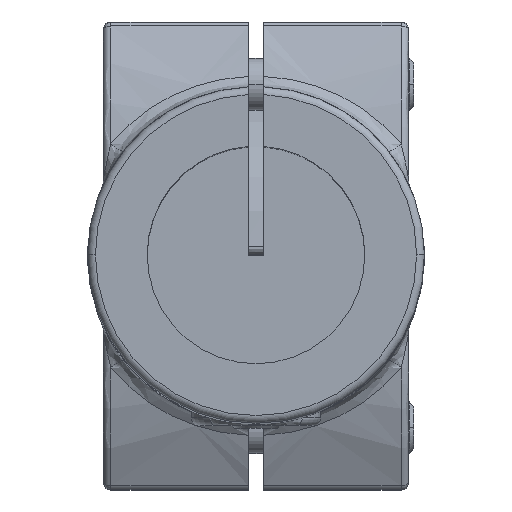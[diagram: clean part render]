
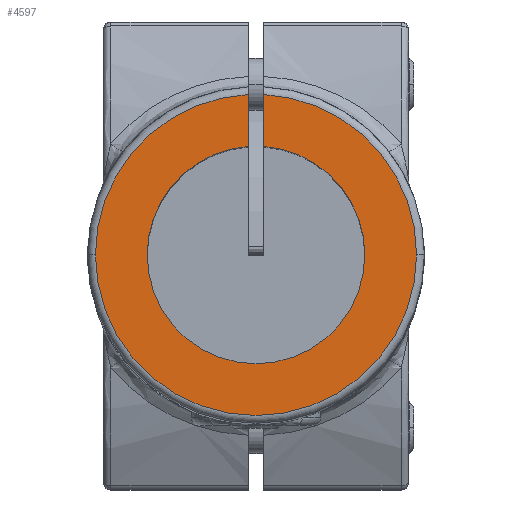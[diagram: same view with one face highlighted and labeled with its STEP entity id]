
A CAD part, top view. The second image highlights one B-rep face of the part: STEP entity #4597.
In plain terms, the highlighted planar face has unit normal (0, 0, 1) as drawn and (0, 0, -1) by its records, which use the part's own axes.
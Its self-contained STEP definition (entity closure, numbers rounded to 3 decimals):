
#393 = DIRECTION ( 'NONE',  ( 0., 1., 0. ) ) ;
#1262 = VECTOR ( 'NONE', #13272, 1000. ) ;
#1370 = CARTESIAN_POINT ( 'NONE',  ( 0., 0., 0. ) ) ;
#1518 = DIRECTION ( 'NONE',  ( 0., 0., 1. ) ) ;
#2253 = LINE ( 'NONE', #14036, #13750 ) ;
#2411 = EDGE_CURVE ( 'NONE', #14524, #13060, #13179, .T. ) ;
#2454 = CARTESIAN_POINT ( 'NONE',  ( 0., 0., 0. ) ) ;
#3012 = PLANE ( 'NONE',  #6759 ) ;
#3220 = EDGE_CURVE ( 'NONE', #14524, #9730, #11464, .T. ) ;
#3791 = CARTESIAN_POINT ( 'NONE',  ( 0., 0., 0. ) ) ;
#4213 = VERTEX_POINT ( 'NONE', #6313 ) ;
#4222 = CIRCLE ( 'NONE', #10267, 21. ) ;
#4309 = DIRECTION ( 'NONE',  ( 1., 0., 0. ) ) ;
#4399 = CARTESIAN_POINT ( 'NONE',  ( 0., 0., 0. ) ) ;
#4597 = ADVANCED_FACE ( 'NONE', ( #16974 ), #3012, .F. ) ;
#4932 = ORIENTED_EDGE ( 'NONE', *, *, #19643, .T. ) ;
#4956 = CARTESIAN_POINT ( 'NONE',  ( 0., 0., 0. ) ) ;
#5157 = EDGE_CURVE ( 'NONE', #17148, #4213, #2253, .T. ) ;
#5548 = DIRECTION ( 'NONE',  ( -1., 0., 0. ) ) ;
#5943 = AXIS2_PLACEMENT_3D ( 'NONE', #3791, #8265, #11362 ) ;
#6313 = CARTESIAN_POINT ( 'NONE',  ( -1.5, 30.964, 0. ) ) ;
#6759 = AXIS2_PLACEMENT_3D ( 'NONE', #7575, #1518, #9478 ) ;
#6863 = CIRCLE ( 'NONE', #18957, 31. ) ;
#6874 = CARTESIAN_POINT ( 'NONE',  ( 31., 0., 0. ) ) ;
#7036 = VERTEX_POINT ( 'NONE', #18713 ) ;
#7243 = DIRECTION ( 'NONE',  ( 0., 0., 1. ) ) ;
#7440 = ORIENTED_EDGE ( 'NONE', *, *, #2411, .F. ) ;
#7564 = ORIENTED_EDGE ( 'NONE', *, *, #11253, .T. ) ;
#7575 = CARTESIAN_POINT ( 'NONE',  ( 0., 0., 0. ) ) ;
#7762 = CIRCLE ( 'NONE', #15434, 31. ) ;
#8064 = ORIENTED_EDGE ( 'NONE', *, *, #5157, .F. ) ;
#8265 = DIRECTION ( 'NONE',  ( 0., 0., 1. ) ) ;
#8823 = VERTEX_POINT ( 'NONE', #11552 ) ;
#9478 = DIRECTION ( 'NONE',  ( 1., 0., 0. ) ) ;
#9730 = VERTEX_POINT ( 'NONE', #6874 ) ;
#10267 = AXIS2_PLACEMENT_3D ( 'NONE', #2454, #15925, #5548 ) ;
#10335 = EDGE_CURVE ( 'NONE', #17148, #7036, #12156, .T. ) ;
#10972 = CARTESIAN_POINT ( 'NONE',  ( -31., 0., 0. ) ) ;
#11253 = EDGE_CURVE ( 'NONE', #7036, #8823, #4222, .T. ) ;
#11362 = DIRECTION ( 'NONE',  ( -1., 0., 0. ) ) ;
#11464 = CIRCLE ( 'NONE', #14665, 31. ) ;
#11552 = CARTESIAN_POINT ( 'NONE',  ( 21., 0., 0. ) ) ;
#11657 = CARTESIAN_POINT ( 'NONE',  ( 1.5, 0., 0. ) ) ;
#11764 = EDGE_LOOP ( 'NONE', ( #7440, #14897, #12527, #18197, #8064, #19601, #7564, #4932 ) ) ;
#12156 = CIRCLE ( 'NONE', #16596, 21. ) ;
#12312 = CARTESIAN_POINT ( 'NONE',  ( 1.5, 20.946, 0. ) ) ;
#12527 = ORIENTED_EDGE ( 'NONE', *, *, #17497, .T. ) ;
#12949 = DIRECTION ( 'NONE',  ( 1., 0., 0. ) ) ;
#13060 = VERTEX_POINT ( 'NONE', #12312 ) ;
#13179 = LINE ( 'NONE', #11657, #1262 ) ;
#13272 = DIRECTION ( 'NONE',  ( 0., -1., 0. ) ) ;
#13309 = CIRCLE ( 'NONE', #5943, 21. ) ;
#13365 = DIRECTION ( 'NONE',  ( -1., 0., 0. ) ) ;
#13750 = VECTOR ( 'NONE', #393, 1000. ) ;
#14036 = CARTESIAN_POINT ( 'NONE',  ( -1.5, 0., 0. ) ) ;
#14524 = VERTEX_POINT ( 'NONE', #16048 ) ;
#14665 = AXIS2_PLACEMENT_3D ( 'NONE', #4956, #18700, #12949 ) ;
#14897 = ORIENTED_EDGE ( 'NONE', *, *, #3220, .T. ) ;
#14997 = CARTESIAN_POINT ( 'NONE',  ( -1.5, 20.946, 0. ) ) ;
#15070 = DIRECTION ( 'NONE',  ( 0., 0., -1. ) ) ;
#15434 = AXIS2_PLACEMENT_3D ( 'NONE', #17871, #16375, #15769 ) ;
#15769 = DIRECTION ( 'NONE',  ( 1., 0., 0. ) ) ;
#15925 = DIRECTION ( 'NONE',  ( 0., 0., 1. ) ) ;
#16048 = CARTESIAN_POINT ( 'NONE',  ( 1.5, 30.964, 0. ) ) ;
#16375 = DIRECTION ( 'NONE',  ( 0., 0., -1. ) ) ;
#16596 = AXIS2_PLACEMENT_3D ( 'NONE', #1370, #7243, #13365 ) ;
#16666 = EDGE_CURVE ( 'NONE', #19414, #4213, #7762, .T. ) ;
#16974 = FACE_OUTER_BOUND ( 'NONE', #11764, .T. ) ;
#17148 = VERTEX_POINT ( 'NONE', #14997 ) ;
#17497 = EDGE_CURVE ( 'NONE', #9730, #19414, #6863, .T. ) ;
#17871 = CARTESIAN_POINT ( 'NONE',  ( 0., 0., 0. ) ) ;
#18197 = ORIENTED_EDGE ( 'NONE', *, *, #16666, .T. ) ;
#18700 = DIRECTION ( 'NONE',  ( 0., 0., -1. ) ) ;
#18713 = CARTESIAN_POINT ( 'NONE',  ( -21., 0., 0. ) ) ;
#18957 = AXIS2_PLACEMENT_3D ( 'NONE', #4399, #15070, #4309 ) ;
#19414 = VERTEX_POINT ( 'NONE', #10972 ) ;
#19601 = ORIENTED_EDGE ( 'NONE', *, *, #10335, .T. ) ;
#19643 = EDGE_CURVE ( 'NONE', #8823, #13060, #13309, .T. ) ;
